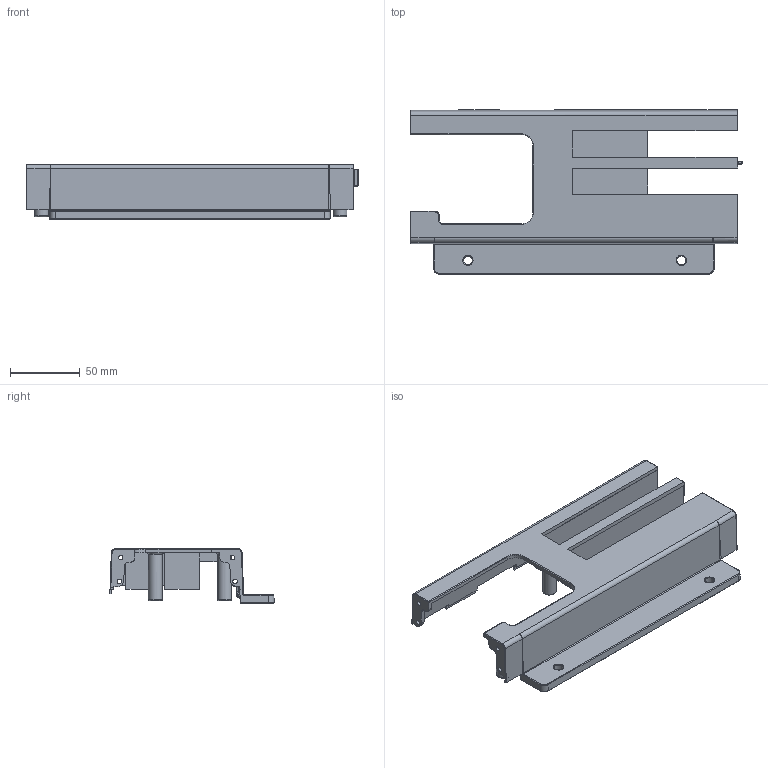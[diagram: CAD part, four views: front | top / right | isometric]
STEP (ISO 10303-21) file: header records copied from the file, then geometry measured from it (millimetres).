
FILE_DESCRIPTION(('FreeCAD Model'),'2;1');
FILE_NAME('Open CASCADE Shape Model','2023-09-06T18:19:25',(''),(''), 'Open CASCADE STEP processor 7.6','FreeCAD','Unknown');
FILE_SCHEMA(('AUTOMOTIVE_DESIGN { 1 0 10303 214 1 1 1 1 }'));
Products named in the file (1): Upper_Middle_Sol
Bounding box: 238 x 117.77 x 39 mm (x, y, z)
Volume: 149331.5 mm3; surface area: 101766.3 mm2
Topology: 1 solids, 1 shells, 387 faces, 946 edges, 571 vertices
Faces by surface type: plane 136, cylinder 101, bspline 97, torus 34, extrusion 10, revolution 5, sphere 4
Full cylindrical faces by diameter (mm): 3.2 x8, 4.2 x3, 6.4 x2, 10 x3
Entity records: 49581 total; most frequent: CARTESIAN_POINT 32317, DIRECTION 2783, ORIENTED_EDGE 1884, PCURVE 1884, DEFINITIONAL_REPRESENTATION 1884, VECTOR 1726, LINE 1716, EDGE_CURVE 942
